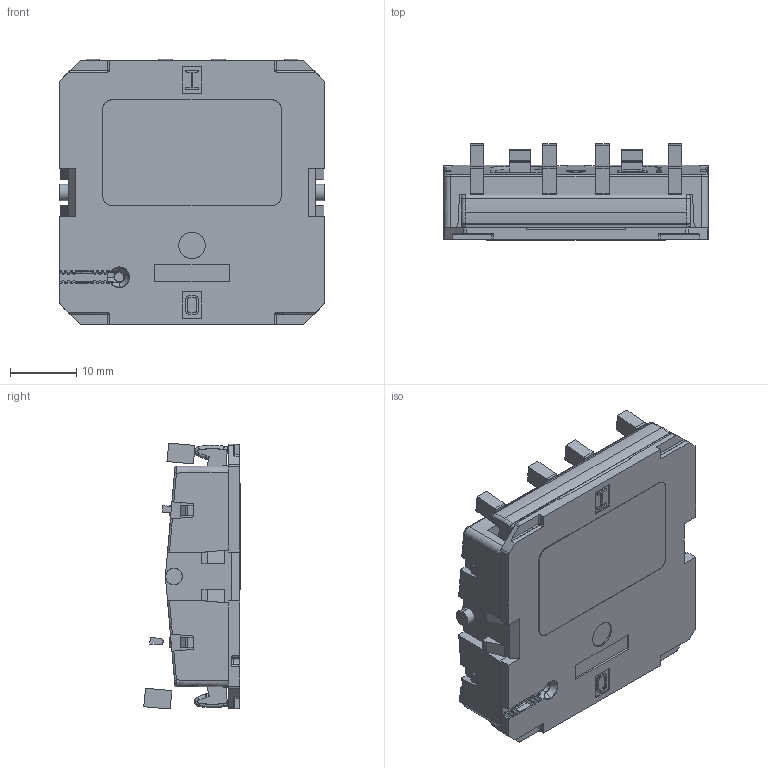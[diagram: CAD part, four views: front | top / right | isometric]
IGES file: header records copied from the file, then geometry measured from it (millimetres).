
Start section: SolidWorks IGES file using analytic representation for surfaces
Global section: file name: C:\Users\sven.klausnitzer\Desktop\PTM 210 update\Aufbereitet für SVN\EinbauanweisungPTM210-Wippe_gedrückt_14-04-2020.IGS; native system: SolidWorks 2014; preprocessor: SolidWorks 2014; author: sven.klausnitzer; date: 200420.205139; units: millimetre
Bounding box: 40 x 14.57 x 40.18 mm (x, y, z)
Surface area: 8917.1 mm2 (no closed solid volume)
Topology: 0 solids, 0 shells, 1177 faces, 8918 edges, 8871 vertices
Faces by surface type: bspline 720, revolution 457
